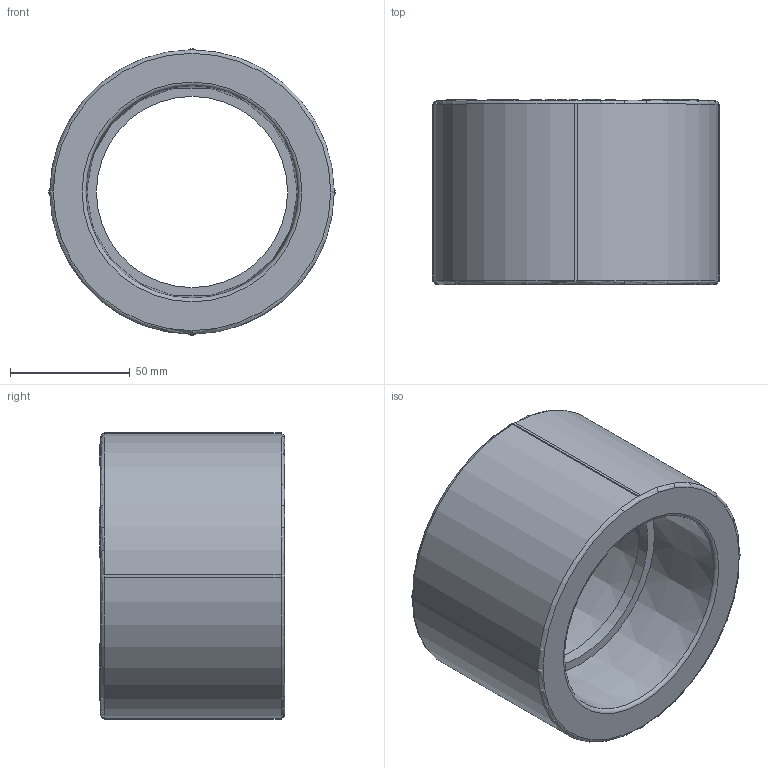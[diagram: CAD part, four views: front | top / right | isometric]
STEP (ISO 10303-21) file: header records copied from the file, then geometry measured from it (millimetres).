
FILE_DESCRIPTION(('STEP AP203'), '1');
FILE_NAME('ÂÐ.713151.008 - VTp.703.0.090', '', ('UNSPECIFIED'), ('UNSPECIFIED'), 'C3D Converter', 'C3D Toolkit', '');
FILE_SCHEMA(('CONFIG_CONTROL_DESIGN'));
Length unit declared in the file: millimetre
Products named in the file (1): ВР.713151.008
Bounding box: 120 x 77.5 x 120 mm (x, y, z)
Volume: 388720.4 mm3; surface area: 61691.7 mm2
Topology: 1 solids, 1 shells, 566 faces, 1575 edges, 1044 vertices
Faces by surface type: extrusion 317, plane 238, cylinder 5, torus 4, cone 2
Full cylindrical faces by diameter (mm): 80 x1
Entity records: 18386 total; most frequent: CARTESIAN_POINT 5081, ORIENTED_EDGE 3136, DIRECTION 1779, EDGE_CURVE 1568, VECTOR 1223, VERTEX_POINT 1044, B_SPLINE_CURVE_WITH_KNOTS 951, LINE 906
